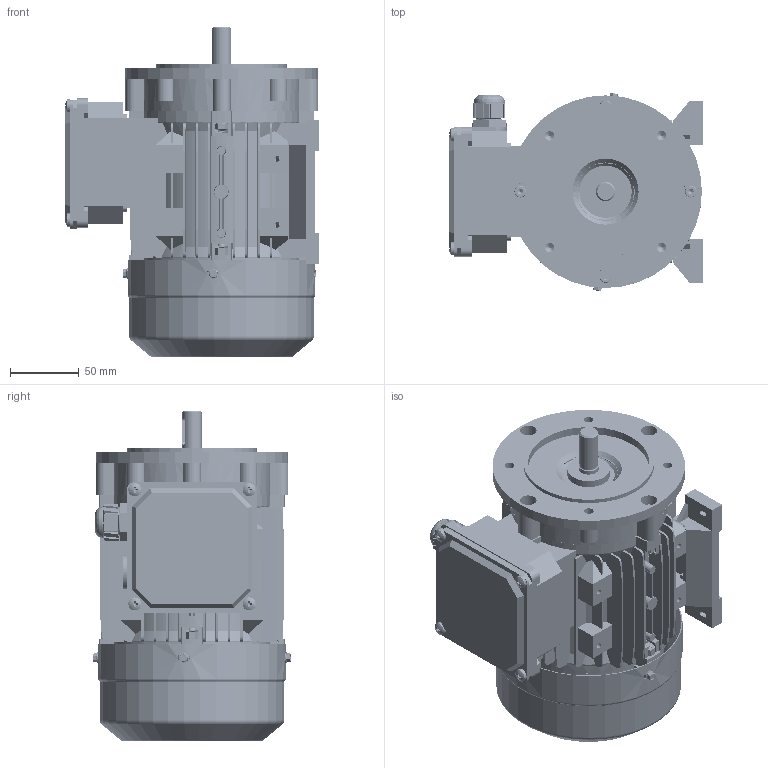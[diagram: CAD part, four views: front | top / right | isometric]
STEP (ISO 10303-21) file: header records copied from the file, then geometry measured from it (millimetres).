
FILE_DESCRIPTION (( 'STEP AP203' ), '1' );
FILE_NAME ('MS71M B34B 3D蚾饜芞.STEP', '2024-08-23T08:52:10', ( 'User' ), ( 'China' ), 'SwSTEP 2.0', 'SolidWorks 2018', '' );
FILE_SCHEMA (( 'CONFIG_CONTROL_DESIGN' ));
Length unit declared in the file: millimetre
Products named in the file (23): spring lock washers--normal type gb_GB_FASTENER_WASHER_SW 6; pan cross head screw_as_AS-NZS 1427 PC- M5 x 8-S; 8.034.07101MS71 S儂褲; hexagon socket head cap screws gb_GB_FASTENER_SCREWS_HSHCS M6X20-S; 蹟杶郋M20X1.5; 8.013.07102MS71綴傷裔; MS63-71諉盄碟菁釱; 蹟簸M20X1.5; 8.200.07101MS71 S蛌粣; MS63-71諉盄碟裔; hexagon socket head cap screws gb_GB_FASTENER_SCREWS_HSHCS M5X25-S; hexagon socket head cap screw_as_AS 1420 - M5 x 25-S; 8.043.07101MS71菁褐; spring lock washers--normal type gb_GB_FASTENER_WASHER_SW 5; hexagon nut (grades c) as_AS 1112.3 C- M5-S; 8.013.07118MS71B14B傷裔; hex nuts, style 1-grades ab gb_GB_FASTENER_NUT_SNAB1 M5-N; 8.306.07101MS71邧脯瑞欶; MS71M B34B 3D蚾饜芞; 蚐猾25X14X4; hex washer head screw_as_AS-NZS 1427 HW - M4 x 6-N; 黑芛20X1.5; pan cross head screw_as_AS-NZS 1427 PC- M4 x 8-S
Assembly tree (51 placements, depth 2):
  MS71M B34B 3D蚾饜芞
    8.034.07101MS71 S儂褲
    8.013.07102MS71綴傷裔
    8.200.07101MS71 S蛌粣
    hexagon socket head cap screw_as_AS 1420 - M5 x 25-S  x4
    hexagon nut (grades c) as_AS 1112.3 C- M5-S  x4
    8.306.07101MS71邧脯瑞欶
    hex washer head screw_as_AS-NZS 1427 HW - M4 x 6-N  x3
    pan cross head screw_as_AS-NZS 1427 PC- M4 x 8-S  x4
    pan cross head screw_as_AS-NZS 1427 PC- M5 x 8-S  x4
    蹟杶郋M20X1.5
    蹟簸M20X1.5
    hexagon socket head cap screws gb_GB_FASTENER_SCREWS_HSHCS M5X25-S  x4
    spring lock washers--normal type gb_GB_FASTENER_WASHER_SW 5  x4
    hex nuts, style 1-grades ab gb_GB_FASTENER_NUT_SNAB1 M5-N  x3
    蚐猾25X14X4
    黑芛20X1.5
    spring lock washers--normal type gb_GB_FASTENER_WASHER_SW 6  x4
    hexagon socket head cap screws gb_GB_FASTENER_SCREWS_HSHCS M6X20-S  x4
    MS63-71諉盄碟菁釱
    MS63-71諉盄碟裔
    8.043.07101MS71菁褐  x2
    8.013.07118MS71B14B傷裔
Bounding box: 185 x 143.8 x 240.1 mm (x, y, z)
Volume: 702318.5 mm3; surface area: 502446.6 mm2
Topology: 51 solids, 60 shells, 7113 faces, 16949 edges, 10010 vertices
Faces by surface type: cone 2491, plane 2398, cylinder 1892, bspline 200, torus 116, sphere 16
Entity records: 146923 total; most frequent: CARTESIAN_POINT 47507, ORIENTED_EDGE 20874, DIRECTION 18962, EDGE_CURVE 10437, VERTEX_POINT 6591, AXIS2_PLACEMENT_3D 6513, VECTOR 5936, LINE 5936
